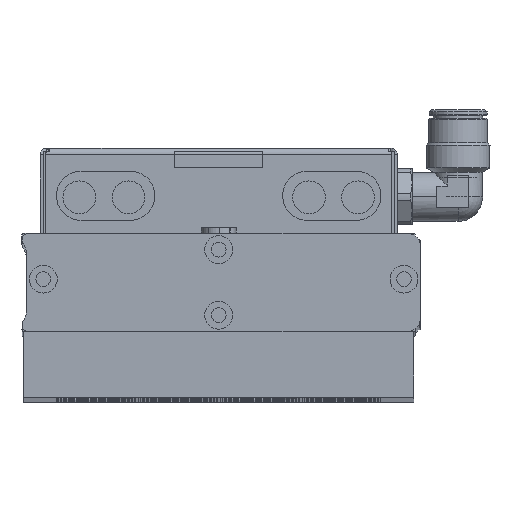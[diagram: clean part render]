
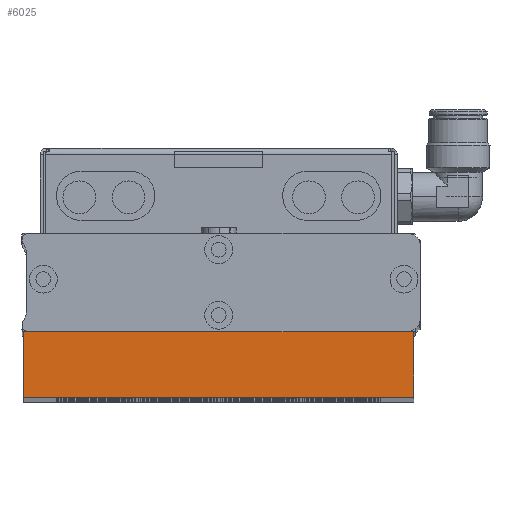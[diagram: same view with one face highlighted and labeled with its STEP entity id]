
A CAD part, top view. The second image highlights one B-rep face of the part: STEP entity #6025.
In plain terms, the highlighted planar face has unit normal (0, 0, 1).
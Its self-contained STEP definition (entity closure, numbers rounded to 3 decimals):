
#3336 = EDGE_CURVE ( 'NONE', #23593, #5335, #19344, .T. ) ;
#3515 = LINE ( 'NONE', #22118, #15788 ) ;
#3611 = CARTESIAN_POINT ( 'NONE',  ( 36.4, -51.3, 427. ) ) ;
#4291 = DIRECTION ( 'NONE',  ( 0., 0., -1. ) ) ;
#5185 = EDGE_CURVE ( 'NONE', #5335, #15358, #18253, .T. ) ;
#5335 = VERTEX_POINT ( 'NONE', #3611 ) ;
#5417 = ORIENTED_EDGE ( 'NONE', *, *, #10185, .T. ) ;
#5676 = DIRECTION ( 'NONE',  ( 1., 0., 0. ) ) ;
#6025 = ADVANCED_FACE ( 'NONE', ( #10167 ), #20899, .F. ) ;
#6256 = DIRECTION ( 'NONE',  ( 0., -1., 0. ) ) ;
#8537 = CARTESIAN_POINT ( 'NONE',  ( -82.6, -51.3, 427. ) ) ;
#9645 = CARTESIAN_POINT ( 'NONE',  ( -82.6, -51.3, 427. ) ) ;
#10167 = FACE_OUTER_BOUND ( 'NONE', #25972, .T. ) ;
#10185 = EDGE_CURVE ( 'NONE', #23593, #11963, #12603, .T. ) ;
#10761 = CARTESIAN_POINT ( 'NONE',  ( -82.6, -51.3, 427. ) ) ;
#11011 = CARTESIAN_POINT ( 'NONE',  ( 36.4, -51.3, 427. ) ) ;
#11486 = ORIENTED_EDGE ( 'NONE', *, *, #3336, .F. ) ;
#11963 = VERTEX_POINT ( 'NONE', #16592 ) ;
#12603 = LINE ( 'NONE', #9645, #23901 ) ;
#15358 = VERTEX_POINT ( 'NONE', #23031 ) ;
#15744 = ORIENTED_EDGE ( 'NONE', *, *, #25821, .T. ) ;
#15788 = VECTOR ( 'NONE', #5676, 1000. ) ;
#16555 = CARTESIAN_POINT ( 'NONE',  ( 36.4, -51.3, 427. ) ) ;
#16592 = CARTESIAN_POINT ( 'NONE',  ( -82.6, -71.3, 427. ) ) ;
#16594 = AXIS2_PLACEMENT_3D ( 'NONE', #8537, #4291, #24890 ) ;
#16642 = ORIENTED_EDGE ( 'NONE', *, *, #5185, .F. ) ;
#17230 = DIRECTION ( 'NONE',  ( 1., 0., 0. ) ) ;
#18253 = LINE ( 'NONE', #16555, #22103 ) ;
#19344 = LINE ( 'NONE', #11011, #24142 ) ;
#20899 = PLANE ( 'NONE',  #16594 ) ;
#22103 = VECTOR ( 'NONE', #6256, 1000. ) ;
#22118 = CARTESIAN_POINT ( 'NONE',  ( 36.4, -71.3, 427. ) ) ;
#23031 = CARTESIAN_POINT ( 'NONE',  ( 36.4, -71.3, 427. ) ) ;
#23593 = VERTEX_POINT ( 'NONE', #10761 ) ;
#23901 = VECTOR ( 'NONE', #25813, 1000. ) ;
#24142 = VECTOR ( 'NONE', #17230, 1000. ) ;
#24890 = DIRECTION ( 'NONE',  ( 0., 1., 0. ) ) ;
#25813 = DIRECTION ( 'NONE',  ( 0., -1., 0. ) ) ;
#25821 = EDGE_CURVE ( 'NONE', #11963, #15358, #3515, .T. ) ;
#25972 = EDGE_LOOP ( 'NONE', ( #15744, #16642, #11486, #5417 ) ) ;
